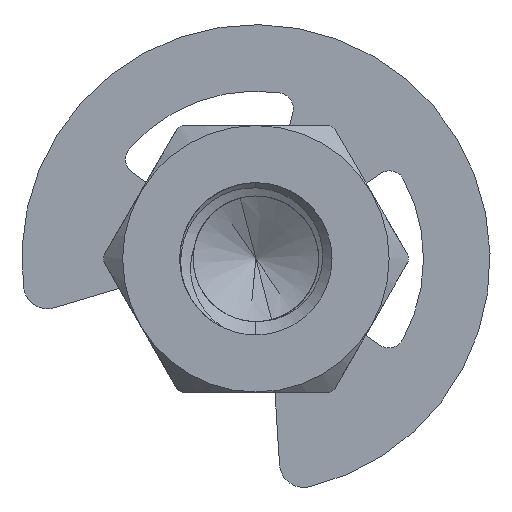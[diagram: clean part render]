
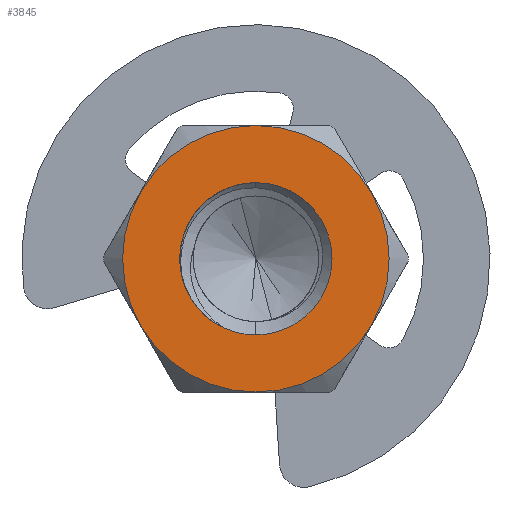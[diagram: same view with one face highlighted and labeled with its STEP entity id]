
A CAD part, front view. The second image highlights one B-rep face of the part: STEP entity #3845.
In plain terms, the highlighted planar face has unit normal (0, -1, 0).
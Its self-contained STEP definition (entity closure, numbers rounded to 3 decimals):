
#318 = ORIENTED_EDGE ( 'NONE', *, *, #1694, .T. ) ;
#592 = CARTESIAN_POINT ( 'NONE',  ( 0., 0., 0. ) ) ;
#850 = EDGE_CURVE ( 'NONE', #3787, #6059, #7452, .T. ) ;
#870 = CARTESIAN_POINT ( 'NONE',  ( 0., 0., 0. ) ) ;
#891 = ORIENTED_EDGE ( 'NONE', *, *, #850, .F. ) ;
#913 = DIRECTION ( 'NONE',  ( 0., 1., 0. ) ) ;
#1250 = VERTEX_POINT ( 'NONE', #11360 ) ;
#1506 = CARTESIAN_POINT ( 'NONE',  ( 0., 0., 0. ) ) ;
#1537 = CIRCLE ( 'NONE', #6695, 3.5 ) ;
#1694 = EDGE_CURVE ( 'NONE', #7639, #10273, #9275, .T. ) ;
#1757 = DIRECTION ( 'NONE',  ( 0., 0., 1. ) ) ;
#1758 = DIRECTION ( 'NONE',  ( 0., 0., 1. ) ) ;
#1793 = AXIS2_PLACEMENT_3D ( 'NONE', #7611, #5620, #6620 ) ;
#1814 = CARTESIAN_POINT ( 'NONE',  ( 0., 0., 0. ) ) ;
#1939 = VERTEX_POINT ( 'NONE', #11407 ) ;
#2112 = CARTESIAN_POINT ( 'NONE',  ( 0., 0., -3.5 ) ) ;
#2142 = AXIS2_PLACEMENT_3D ( 'NONE', #5573, #5480, #12783 ) ;
#2279 = ORIENTED_EDGE ( 'NONE', *, *, #9290, .F. ) ;
#2408 = EDGE_LOOP ( 'NONE', ( #13368, #9136, #318, #2827 ) ) ;
#2767 = CARTESIAN_POINT ( 'NONE',  ( 0., 0., 2. ) ) ;
#2827 = ORIENTED_EDGE ( 'NONE', *, *, #13293, .T. ) ;
#2949 = DIRECTION ( 'NONE',  ( 0., 0., 1. ) ) ;
#3094 = DIRECTION ( 'NONE',  ( 0., 1., 0. ) ) ;
#3328 = EDGE_CURVE ( 'NONE', #4069, #11729, #1537, .T. ) ;
#3442 = DIRECTION ( 'NONE',  ( 0., 0., 1. ) ) ;
#3787 = VERTEX_POINT ( 'NONE', #7839 ) ;
#3845 = ADVANCED_FACE ( 'NONE', ( #11352, #10359 ), #6831, .F. ) ;
#3890 = CARTESIAN_POINT ( 'NONE',  ( 0., 0., 3.5 ) ) ;
#3944 = EDGE_CURVE ( 'NONE', #11729, #3787, #12489, .T. ) ;
#3997 = DIRECTION ( 'NONE',  ( 0., 1., 0. ) ) ;
#4069 = VERTEX_POINT ( 'NONE', #2112 ) ;
#4084 = AXIS2_PLACEMENT_3D ( 'NONE', #592, #13209, #1757 ) ;
#4347 = DIRECTION ( 'NONE',  ( 0., 0., 1. ) ) ;
#4434 = CARTESIAN_POINT ( 'NONE',  ( -3.031, 0., -1.75 ) ) ;
#4575 = CARTESIAN_POINT ( 'NONE',  ( 0., 0., 0. ) ) ;
#4656 = ORIENTED_EDGE ( 'NONE', *, *, #10050, .F. ) ;
#4725 = EDGE_CURVE ( 'NONE', #10956, #4069, #12228, .T. ) ;
#4911 = ORIENTED_EDGE ( 'NONE', *, *, #3944, .F. ) ;
#5480 = DIRECTION ( 'NONE',  ( 0., 1., 0. ) ) ;
#5547 = AXIS2_PLACEMENT_3D ( 'NONE', #9505, #9371, #4347 ) ;
#5573 = CARTESIAN_POINT ( 'NONE',  ( 0., 0., 0. ) ) ;
#5620 = DIRECTION ( 'NONE',  ( 0., 1., 0. ) ) ;
#5879 = DIRECTION ( 'NONE',  ( 0., 0., 1. ) ) ;
#5932 = AXIS2_PLACEMENT_3D ( 'NONE', #1506, #8809, #7093 ) ;
#6059 = VERTEX_POINT ( 'NONE', #3890 ) ;
#6620 = DIRECTION ( 'NONE',  ( 0., 0., 1. ) ) ;
#6669 = ORIENTED_EDGE ( 'NONE', *, *, #4725, .F. ) ;
#6695 = AXIS2_PLACEMENT_3D ( 'NONE', #4575, #12888, #3442 ) ;
#6776 = DIRECTION ( 'NONE',  ( 0., 1., 0. ) ) ;
#6797 = CARTESIAN_POINT ( 'NONE',  ( -1.863, 0., -0.728 ) ) ;
#6831 = PLANE ( 'NONE',  #4084 ) ;
#7093 = DIRECTION ( 'NONE',  ( 0., 0., 1. ) ) ;
#7452 = CIRCLE ( 'NONE', #5547, 3.5 ) ;
#7611 = CARTESIAN_POINT ( 'NONE',  ( 0., 0., 0. ) ) ;
#7639 = VERTEX_POINT ( 'NONE', #2767 ) ;
#7782 = EDGE_CURVE ( 'NONE', #1939, #10657, #11010, .T. ) ;
#7839 = CARTESIAN_POINT ( 'NONE',  ( -3.031, 0., 1.75 ) ) ;
#7942 = ORIENTED_EDGE ( 'NONE', *, *, #3328, .F. ) ;
#8353 = CARTESIAN_POINT ( 'NONE',  ( 3.031, 0., -1.75 ) ) ;
#8602 = CIRCLE ( 'NONE', #9773, 2. ) ;
#8809 = DIRECTION ( 'NONE',  ( 0., 1., 0. ) ) ;
#9064 = DIRECTION ( 'NONE',  ( 0., 1., 0. ) ) ;
#9113 = CARTESIAN_POINT ( 'NONE',  ( 0., 0., 0. ) ) ;
#9136 = ORIENTED_EDGE ( 'NONE', *, *, #13252, .T. ) ;
#9275 = CIRCLE ( 'NONE', #9721, 2. ) ;
#9290 = EDGE_CURVE ( 'NONE', #6059, #1250, #11181, .T. ) ;
#9371 = DIRECTION ( 'NONE',  ( 0., 1., 0. ) ) ;
#9381 = DIRECTION ( 'NONE',  ( 0., 0., 1. ) ) ;
#9505 = CARTESIAN_POINT ( 'NONE',  ( 0., 0., 0. ) ) ;
#9721 = AXIS2_PLACEMENT_3D ( 'NONE', #13111, #6776, #5879 ) ;
#9773 = AXIS2_PLACEMENT_3D ( 'NONE', #10254, #3997, #11113 ) ;
#10038 = AXIS2_PLACEMENT_3D ( 'NONE', #870, #9064, #1758 ) ;
#10050 = EDGE_CURVE ( 'NONE', #1250, #10956, #10639, .T. ) ;
#10254 = CARTESIAN_POINT ( 'NONE',  ( 0., 0., 0. ) ) ;
#10273 = VERTEX_POINT ( 'NONE', #12863 ) ;
#10359 = FACE_OUTER_BOUND ( 'NONE', #11440, .T. ) ;
#10639 = CIRCLE ( 'NONE', #5932, 3.5 ) ;
#10657 = VERTEX_POINT ( 'NONE', #6797 ) ;
#10956 = VERTEX_POINT ( 'NONE', #8353 ) ;
#11010 = CIRCLE ( 'NONE', #12850, 2. ) ;
#11113 = DIRECTION ( 'NONE',  ( 0., 0., 1. ) ) ;
#11126 = CIRCLE ( 'NONE', #10038, 2. ) ;
#11181 = CIRCLE ( 'NONE', #1793, 3.5 ) ;
#11352 = FACE_BOUND ( 'NONE', #2408, .T. ) ;
#11360 = CARTESIAN_POINT ( 'NONE',  ( 3.031, 0., 1.75 ) ) ;
#11407 = CARTESIAN_POINT ( 'NONE',  ( -0.833, 0., -1.818 ) ) ;
#11440 = EDGE_LOOP ( 'NONE', ( #2279, #891, #4911, #7942, #6669, #4656 ) ) ;
#11729 = VERTEX_POINT ( 'NONE', #4434 ) ;
#12228 = CIRCLE ( 'NONE', #2142, 3.5 ) ;
#12489 = CIRCLE ( 'NONE', #13425, 3.5 ) ;
#12783 = DIRECTION ( 'NONE',  ( 0., 0., 1. ) ) ;
#12850 = AXIS2_PLACEMENT_3D ( 'NONE', #1814, #3094, #9381 ) ;
#12863 = CARTESIAN_POINT ( 'NONE',  ( 0., 0., -2. ) ) ;
#12888 = DIRECTION ( 'NONE',  ( 0., 1., 0. ) ) ;
#13111 = CARTESIAN_POINT ( 'NONE',  ( 0., 0., 0. ) ) ;
#13209 = DIRECTION ( 'NONE',  ( 0., 1., 0. ) ) ;
#13252 = EDGE_CURVE ( 'NONE', #10657, #7639, #11126, .T. ) ;
#13293 = EDGE_CURVE ( 'NONE', #10273, #1939, #8602, .T. ) ;
#13368 = ORIENTED_EDGE ( 'NONE', *, *, #7782, .T. ) ;
#13425 = AXIS2_PLACEMENT_3D ( 'NONE', #9113, #913, #2949 ) ;
